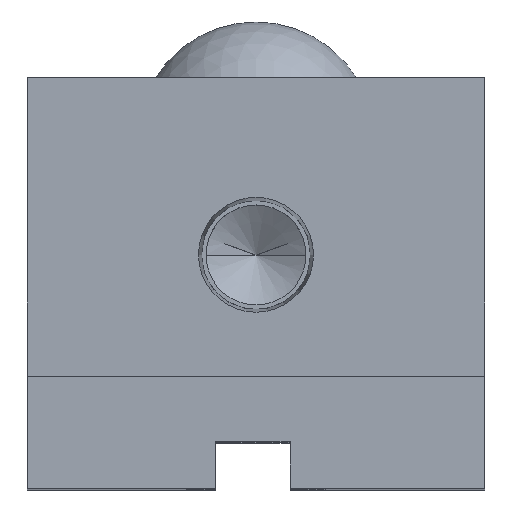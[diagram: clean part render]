
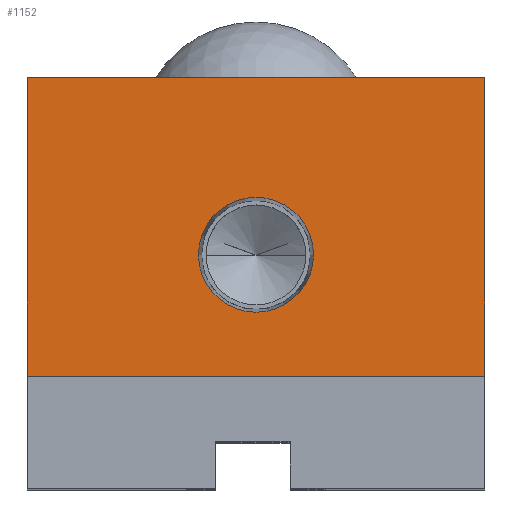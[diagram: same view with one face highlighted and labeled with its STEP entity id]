
A CAD part, top view. The second image highlights one B-rep face of the part: STEP entity #1152.
In plain terms, the highlighted planar face has unit normal (0, 0, 1).
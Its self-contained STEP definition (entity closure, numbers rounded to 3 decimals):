
#76 = CARTESIAN_POINT ( 'NONE',  ( 24.5, 32., 0. ) ) ;
#113 = ORIENTED_EDGE ( 'NONE', *, *, #2371, .F. ) ;
#141 = ORIENTED_EDGE ( 'NONE', *, *, #1780, .T. ) ;
#201 = CARTESIAN_POINT ( 'NONE',  ( -24.5, 32., 0. ) ) ;
#311 = CARTESIAN_POINT ( 'NONE',  ( 0., 13., 0. ) ) ;
#321 = EDGE_CURVE ( 'NONE', #1406, #1449, #342, .T. ) ;
#328 = CARTESIAN_POINT ( 'NONE',  ( 24.5, 32., 0. ) ) ;
#342 = LINE ( 'NONE', #2433, #2227 ) ;
#398 = EDGE_CURVE ( 'NONE', #1225, #774, #1592, .T. ) ;
#500 = DIRECTION ( 'NONE',  ( 1., 0., 0. ) ) ;
#577 = VECTOR ( 'NONE', #912, 1000. ) ;
#593 = DIRECTION ( 'NONE',  ( 0., 0., -1. ) ) ;
#606 = FACE_BOUND ( 'NONE', #1377, .T. ) ;
#613 = DIRECTION ( 'NONE',  ( -1., 0., 0. ) ) ;
#634 = VECTOR ( 'NONE', #613, 1000. ) ;
#681 = AXIS2_PLACEMENT_3D ( 'NONE', #1140, #2458, #1328 ) ;
#695 = VECTOR ( 'NONE', #1654, 1000. ) ;
#742 = LINE ( 'NONE', #1932, #634 ) ;
#753 = AXIS2_PLACEMENT_3D ( 'NONE', #311, #1632, #500 ) ;
#774 = VERTEX_POINT ( 'NONE', #1890 ) ;
#794 = EDGE_CURVE ( 'NONE', #1449, #1866, #2146, .T. ) ;
#806 = CARTESIAN_POINT ( 'NONE',  ( 6.154, 13., 0. ) ) ;
#808 = CARTESIAN_POINT ( 'NONE',  ( -24.5, 0., 0. ) ) ;
#831 = EDGE_CURVE ( 'NONE', #1534, #1406, #1589, .T. ) ;
#894 = ORIENTED_EDGE ( 'NONE', *, *, #321, .T. ) ;
#912 = DIRECTION ( 'NONE',  ( 0., -1., 0. ) ) ;
#914 = AXIS2_PLACEMENT_3D ( 'NONE', #1353, #593, #1917 ) ;
#1093 = CARTESIAN_POINT ( 'NONE',  ( -24.5, 0., 0. ) ) ;
#1140 = CARTESIAN_POINT ( 'NONE',  ( 0., 13., 0. ) ) ;
#1152 = ADVANCED_FACE ( 'NONE', ( #606, #2054 ), #2099, .F. ) ;
#1189 = ORIENTED_EDGE ( 'NONE', *, *, #831, .T. ) ;
#1194 = ORIENTED_EDGE ( 'NONE', *, *, #398, .F. ) ;
#1225 = VERTEX_POINT ( 'NONE', #806 ) ;
#1302 = DIRECTION ( 'NONE',  ( 1., 0., 0. ) ) ;
#1308 = CARTESIAN_POINT ( 'NONE',  ( 24.5, 0., 0. ) ) ;
#1328 = DIRECTION ( 'NONE',  ( 1., 0., 0. ) ) ;
#1353 = CARTESIAN_POINT ( 'NONE',  ( 0., 0., 0. ) ) ;
#1377 = EDGE_LOOP ( 'NONE', ( #1194, #113 ) ) ;
#1406 = VERTEX_POINT ( 'NONE', #808 ) ;
#1449 = VERTEX_POINT ( 'NONE', #1308 ) ;
#1534 = VERTEX_POINT ( 'NONE', #201 ) ;
#1589 = LINE ( 'NONE', #1093, #577 ) ;
#1592 = CIRCLE ( 'NONE', #681, 6.154 ) ;
#1632 = DIRECTION ( 'NONE',  ( 0., 0., 1. ) ) ;
#1654 = DIRECTION ( 'NONE',  ( 0., 1., 0. ) ) ;
#1690 = CIRCLE ( 'NONE', #753, 6.154 ) ;
#1780 = EDGE_CURVE ( 'NONE', #1866, #1534, #742, .T. ) ;
#1866 = VERTEX_POINT ( 'NONE', #76 ) ;
#1890 = CARTESIAN_POINT ( 'NONE',  ( -6.154, 13., 0. ) ) ;
#1896 = EDGE_LOOP ( 'NONE', ( #1189, #894, #2019, #141 ) ) ;
#1917 = DIRECTION ( 'NONE',  ( -1., 0., 0. ) ) ;
#1932 = CARTESIAN_POINT ( 'NONE',  ( -24.5, 32., 0. ) ) ;
#2019 = ORIENTED_EDGE ( 'NONE', *, *, #794, .T. ) ;
#2054 = FACE_OUTER_BOUND ( 'NONE', #1896, .T. ) ;
#2099 = PLANE ( 'NONE',  #914 ) ;
#2146 = LINE ( 'NONE', #328, #695 ) ;
#2227 = VECTOR ( 'NONE', #1302, 1000. ) ;
#2371 = EDGE_CURVE ( 'NONE', #774, #1225, #1690, .T. ) ;
#2433 = CARTESIAN_POINT ( 'NONE',  ( 24.5, 0., 0. ) ) ;
#2458 = DIRECTION ( 'NONE',  ( 0., 0., 1. ) ) ;
